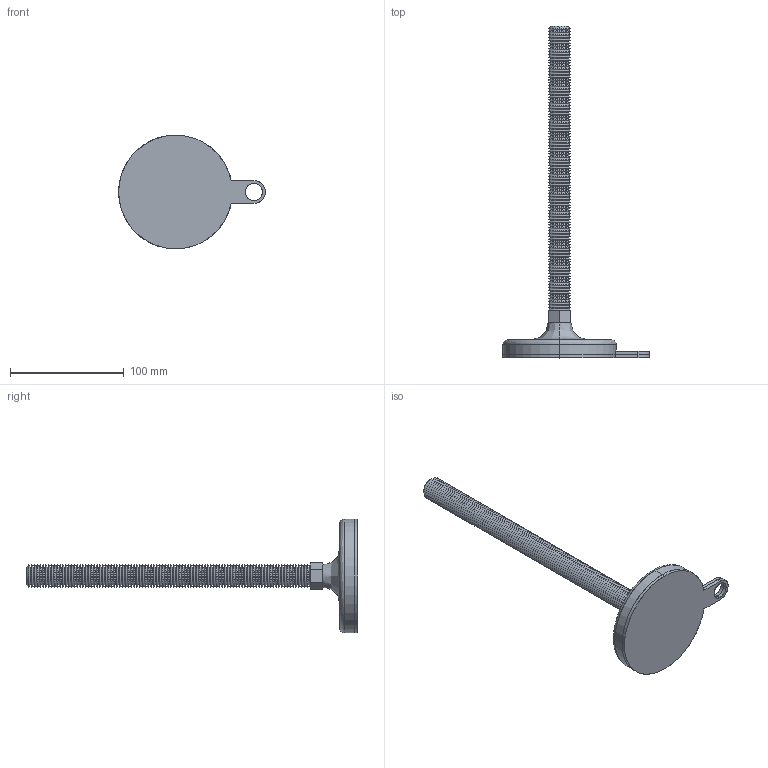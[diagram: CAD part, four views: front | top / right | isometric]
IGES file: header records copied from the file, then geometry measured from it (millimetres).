
Start section: SolidWorks IGES file using analytic representation for surfaces
Global section: file name: C:\Users\liam_\OneDrive\Documents\WORK\Work for WixRoyd\Job Files\J-00026 - Matt Davis CAD - 20191124\04. CAD Drawings\Wixroyd20191124\34704_v2\34704_v2_20191128_IGES\34704.W2008.igs; native system: SolidWorks 2017; preprocessor: SolidWorks 2017; author: liam_; date: 191128.202846; units: millimetre
Bounding box: 129 x 292 x 100 mm (x, y, z)
Surface area: 67211.3 mm2 (no closed solid volume)
Topology: 0 solids, 0 shells, 441 faces, 2396 edges, 2396 vertices
Faces by surface type: revolution 409, bspline 32
